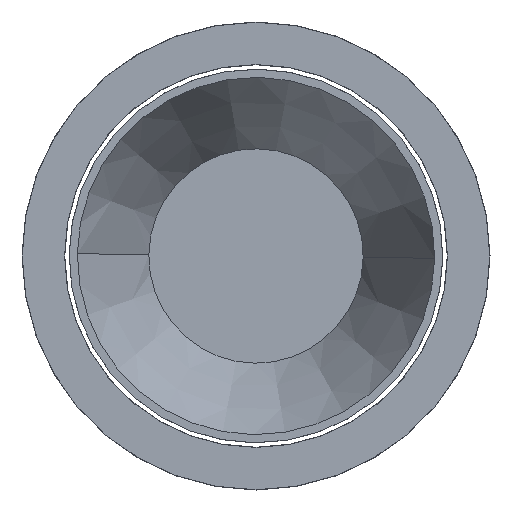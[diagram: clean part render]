
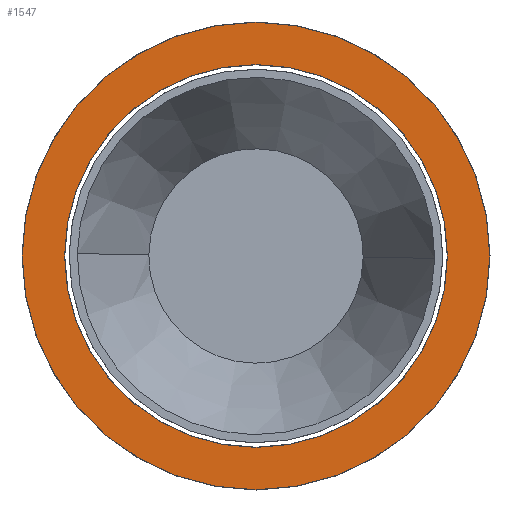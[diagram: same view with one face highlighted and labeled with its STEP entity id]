
A CAD part, front view. The second image highlights one B-rep face of the part: STEP entity #1547.
In plain terms, the highlighted planar face has unit normal (0, -1, 0).
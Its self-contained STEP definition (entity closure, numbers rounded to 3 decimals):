
#21 = EDGE_CURVE ( 'NONE', #1320, #1145, #288, .T. ) ;
#41 = ORIENTED_EDGE ( 'NONE', *, *, #611, .T. ) ;
#58 = DIRECTION ( 'NONE',  ( 0., 1., 0. ) ) ;
#87 = VERTEX_POINT ( 'NONE', #2086 ) ;
#147 = DIRECTION ( 'NONE',  ( 0., 1., 0. ) ) ;
#195 = DIRECTION ( 'NONE',  ( 0., 1., 0. ) ) ;
#210 = DIRECTION ( 'NONE',  ( 0., 0., 1. ) ) ;
#288 = CIRCLE ( 'NONE', #681, 45.8 ) ;
#511 = DIRECTION ( 'NONE',  ( 0., 0., 1. ) ) ;
#605 = CARTESIAN_POINT ( 'NONE',  ( 0., 0., 0. ) ) ;
#611 = EDGE_CURVE ( 'NONE', #1673, #87, #3234, .T. ) ;
#681 = AXIS2_PLACEMENT_3D ( 'NONE', #3534, #58, #1273 ) ;
#700 = EDGE_CURVE ( 'NONE', #1145, #1320, #3451, .T. ) ;
#710 = CARTESIAN_POINT ( 'NONE',  ( 0., 0., 0. ) ) ;
#717 = ORIENTED_EDGE ( 'NONE', *, *, #700, .F. ) ;
#853 = ORIENTED_EDGE ( 'NONE', *, *, #21, .F. ) ;
#860 = CARTESIAN_POINT ( 'NONE',  ( 0., 0., 45.8 ) ) ;
#898 = CARTESIAN_POINT ( 'NONE',  ( 0., 0., -37.5 ) ) ;
#996 = EDGE_CURVE ( 'NONE', #87, #1673, #3157, .T. ) ;
#1145 = VERTEX_POINT ( 'NONE', #1405 ) ;
#1190 = FACE_OUTER_BOUND ( 'NONE', #1240, .T. ) ;
#1240 = EDGE_LOOP ( 'NONE', ( #853, #717 ) ) ;
#1273 = DIRECTION ( 'NONE',  ( 0., 0., 1. ) ) ;
#1320 = VERTEX_POINT ( 'NONE', #860 ) ;
#1334 = AXIS2_PLACEMENT_3D ( 'NONE', #2191, #3212, #3466 ) ;
#1405 = CARTESIAN_POINT ( 'NONE',  ( 0., 0., -45.8 ) ) ;
#1547 = ADVANCED_FACE ( 'NONE', ( #1190, #2816 ), #3229, .F. ) ;
#1673 = VERTEX_POINT ( 'NONE', #898 ) ;
#1775 = DIRECTION ( 'NONE',  ( 0., 1., 0. ) ) ;
#2086 = CARTESIAN_POINT ( 'NONE',  ( 0., 0., 37.5 ) ) ;
#2191 = CARTESIAN_POINT ( 'NONE',  ( 0., 0., 0. ) ) ;
#2278 = ORIENTED_EDGE ( 'NONE', *, *, #996, .T. ) ;
#2398 = AXIS2_PLACEMENT_3D ( 'NONE', #3250, #1775, #3342 ) ;
#2521 = EDGE_LOOP ( 'NONE', ( #2278, #41 ) ) ;
#2776 = AXIS2_PLACEMENT_3D ( 'NONE', #605, #147, #210 ) ;
#2816 = FACE_BOUND ( 'NONE', #2521, .T. ) ;
#2870 = AXIS2_PLACEMENT_3D ( 'NONE', #710, #195, #511 ) ;
#3157 = CIRCLE ( 'NONE', #2398, 37.5 ) ;
#3212 = DIRECTION ( 'NONE',  ( 0., 1., 0. ) ) ;
#3229 = PLANE ( 'NONE',  #1334 ) ;
#3234 = CIRCLE ( 'NONE', #2870, 37.5 ) ;
#3250 = CARTESIAN_POINT ( 'NONE',  ( 0., 0., 0. ) ) ;
#3342 = DIRECTION ( 'NONE',  ( 0., 0., 1. ) ) ;
#3451 = CIRCLE ( 'NONE', #2776, 45.8 ) ;
#3466 = DIRECTION ( 'NONE',  ( 0., 0., 1. ) ) ;
#3534 = CARTESIAN_POINT ( 'NONE',  ( 0., 0., 0. ) ) ;
